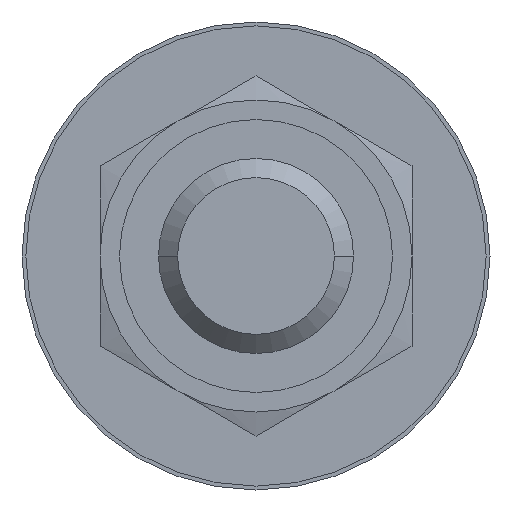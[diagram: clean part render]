
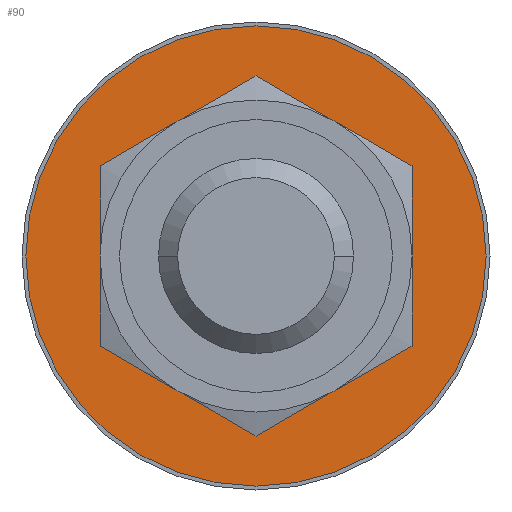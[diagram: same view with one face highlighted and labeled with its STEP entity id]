
A CAD part, front view. The second image highlights one B-rep face of the part: STEP entity #90.
In plain terms, the highlighted planar face has unit normal (0, -1, 0).
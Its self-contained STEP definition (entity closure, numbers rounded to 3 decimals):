
#90 = ADVANCED_FACE( '', ( #151, #152 ), #153, .T. );
#151 = FACE_OUTER_BOUND( '', #248, .T. );
#152 = FACE_BOUND( '', #249, .T. );
#153 = PLANE( '', #250 );
#248 = EDGE_LOOP( '', ( #432, #433 ) );
#249 = EDGE_LOOP( '', ( #434, #435, #436, #437, #438, #439 ) );
#250 = AXIS2_PLACEMENT_3D( '', #440, #441, #442 );
#432 = ORIENTED_EDGE( '', *, *, #651, .F. );
#433 = ORIENTED_EDGE( '', *, *, #698, .F. );
#434 = ORIENTED_EDGE( '', *, *, #699, .T. );
#435 = ORIENTED_EDGE( '', *, *, #700, .T. );
#436 = ORIENTED_EDGE( '', *, *, #701, .T. );
#437 = ORIENTED_EDGE( '', *, *, #702, .T. );
#438 = ORIENTED_EDGE( '', *, *, #703, .T. );
#439 = ORIENTED_EDGE( '', *, *, #704, .T. );
#440 = CARTESIAN_POINT( '', ( 4.95, 5.4, 0. ) );
#441 = DIRECTION( '', ( 0., -1., 0. ) );
#442 = DIRECTION( '', ( -1., 0., 0. ) );
#651 = EDGE_CURVE( '', #758, #761, #762, .T. );
#698 = EDGE_CURVE( '', #761, #758, #846, .T. );
#699 = EDGE_CURVE( '', #793, #816, #847, .T. );
#700 = EDGE_CURVE( '', #816, #805, #848, .T. );
#701 = EDGE_CURVE( '', #805, #822, #849, .T. );
#702 = EDGE_CURVE( '', #822, #831, #850, .T. );
#703 = EDGE_CURVE( '', #831, #840, #851, .T. );
#704 = EDGE_CURVE( '', #840, #793, #852, .T. );
#758 = VERTEX_POINT( '', #914 );
#761 = VERTEX_POINT( '', #918 );
#762 = CIRCLE( '', #919, 5.9 );
#793 = VERTEX_POINT( '', #959 );
#805 = VERTEX_POINT( '', #1009 );
#816 = VERTEX_POINT( '', #1058 );
#822 = VERTEX_POINT( '', #1100 );
#831 = VERTEX_POINT( '', #1146 );
#840 = VERTEX_POINT( '', #1192 );
#846 = CIRCLE( '', #1234, 5.9 );
#847 = CIRCLE( '', #1235, 4. );
#848 = CIRCLE( '', #1236, 4. );
#849 = CIRCLE( '', #1237, 4. );
#850 = CIRCLE( '', #1238, 4. );
#851 = CIRCLE( '', #1239, 4. );
#852 = CIRCLE( '', #1240, 4. );
#914 = CARTESIAN_POINT( '', ( 5.9, 5.4, 0. ) );
#918 = CARTESIAN_POINT( '', ( -5.9, 5.4, 0. ) );
#919 = AXIS2_PLACEMENT_3D( '', #1295, #1296, #1297 );
#959 = CARTESIAN_POINT( '', ( 4., 5.4, 0. ) );
#1009 = CARTESIAN_POINT( '', ( -2., 5.4, -3.464 ) );
#1058 = CARTESIAN_POINT( '', ( 2., 5.4, -3.464 ) );
#1100 = CARTESIAN_POINT( '', ( -4., 5.4, 0. ) );
#1146 = CARTESIAN_POINT( '', ( -2., 5.4, 3.464 ) );
#1192 = CARTESIAN_POINT( '', ( 2., 5.4, 3.464 ) );
#1234 = AXIS2_PLACEMENT_3D( '', #1334, #1335, #1336 );
#1235 = AXIS2_PLACEMENT_3D( '', #1337, #1338, #1339 );
#1236 = AXIS2_PLACEMENT_3D( '', #1340, #1341, #1342 );
#1237 = AXIS2_PLACEMENT_3D( '', #1343, #1344, #1345 );
#1238 = AXIS2_PLACEMENT_3D( '', #1346, #1347, #1348 );
#1239 = AXIS2_PLACEMENT_3D( '', #1349, #1350, #1351 );
#1240 = AXIS2_PLACEMENT_3D( '', #1352, #1353, #1354 );
#1295 = CARTESIAN_POINT( '', ( 0., 5.4, 0. ) );
#1296 = DIRECTION( '', ( 0., 1., 0. ) );
#1297 = DIRECTION( '', ( 1., 0., 0. ) );
#1334 = CARTESIAN_POINT( '', ( 0., 5.4, 0. ) );
#1335 = DIRECTION( '', ( 0., 1., 0. ) );
#1336 = DIRECTION( '', ( 1., 0., 0. ) );
#1337 = CARTESIAN_POINT( '', ( 0., 5.4, 0. ) );
#1338 = DIRECTION( '', ( 0., 1., 0. ) );
#1339 = DIRECTION( '', ( 1., 0., 0. ) );
#1340 = CARTESIAN_POINT( '', ( 0., 5.4, 0. ) );
#1341 = DIRECTION( '', ( 0., 1., 0. ) );
#1342 = DIRECTION( '', ( 1., 0., 0. ) );
#1343 = CARTESIAN_POINT( '', ( 0., 5.4, 0. ) );
#1344 = DIRECTION( '', ( 0., 1., 0. ) );
#1345 = DIRECTION( '', ( 1., 0., 0. ) );
#1346 = CARTESIAN_POINT( '', ( 0., 5.4, 0. ) );
#1347 = DIRECTION( '', ( 0., 1., 0. ) );
#1348 = DIRECTION( '', ( 1., 0., 0. ) );
#1349 = CARTESIAN_POINT( '', ( 0., 5.4, 0. ) );
#1350 = DIRECTION( '', ( 0., 1., 0. ) );
#1351 = DIRECTION( '', ( 1., 0., 0. ) );
#1352 = CARTESIAN_POINT( '', ( 0., 5.4, 0. ) );
#1353 = DIRECTION( '', ( 0., 1., 0. ) );
#1354 = DIRECTION( '', ( 1., 0., 0. ) );
